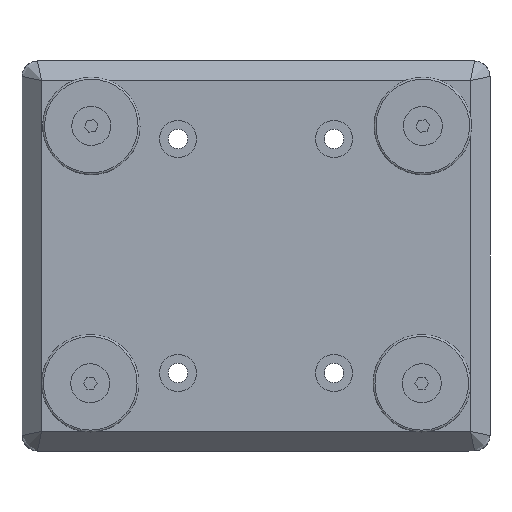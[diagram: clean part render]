
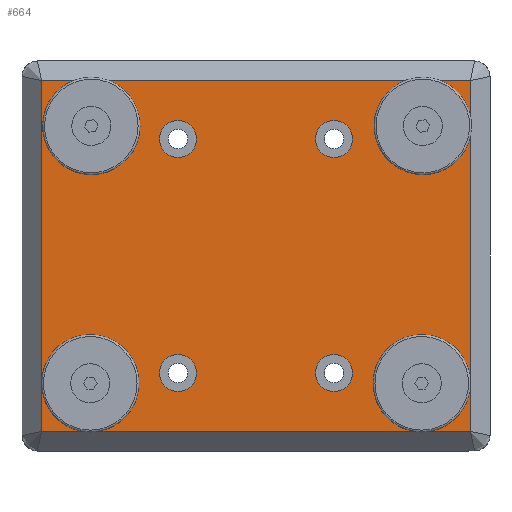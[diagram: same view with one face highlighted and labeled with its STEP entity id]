
A CAD part, front view. The second image highlights one B-rep face of the part: STEP entity #664.
In plain terms, the highlighted planar face has unit normal (0, -1, 0).
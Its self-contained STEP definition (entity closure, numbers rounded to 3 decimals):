
#664=ADVANCED_FACE('',(#964,#965,#966,#967,#968,#969,#970,#971,#972),#973,.T.);
#964=FACE_BOUND('',#1642,.T.);
#965=FACE_BOUND('',#1643,.T.);
#966=FACE_BOUND('',#1644,.T.);
#967=FACE_BOUND('',#1645,.T.);
#968=FACE_BOUND('',#1646,.T.);
#969=FACE_BOUND('',#1647,.T.);
#970=FACE_OUTER_BOUND('',#1648,.T.);
#971=FACE_BOUND('',#1649,.T.);
#972=FACE_BOUND('',#1650,.T.);
#973=PLANE('',#1651);
#1642=EDGE_LOOP('',(#2505));
#1643=EDGE_LOOP('',(#2506));
#1644=EDGE_LOOP('',(#2507));
#1645=EDGE_LOOP('',(#2508));
#1646=EDGE_LOOP('',(#2509));
#1647=EDGE_LOOP('',(#2510));
#1648=EDGE_LOOP('',(#2511,#2512,#2513,#2514));
#1649=EDGE_LOOP('',(#2515));
#1650=EDGE_LOOP('',(#2516));
#1651=AXIS2_PLACEMENT_3D('',#2517,#2518,#2519);
#2505=ORIENTED_EDGE('',*,*,#4325,.F.);
#2506=ORIENTED_EDGE('',*,*,#4326,.F.);
#2507=ORIENTED_EDGE('',*,*,#4327,.F.);
#2508=ORIENTED_EDGE('',*,*,#4328,.F.);
#2509=ORIENTED_EDGE('',*,*,#4329,.T.);
#2510=ORIENTED_EDGE('',*,*,#4330,.T.);
#2511=ORIENTED_EDGE('',*,*,#4284,.F.);
#2512=ORIENTED_EDGE('',*,*,#4331,.F.);
#2513=ORIENTED_EDGE('',*,*,#4332,.T.);
#2514=ORIENTED_EDGE('',*,*,#4322,.T.);
#2515=ORIENTED_EDGE('',*,*,#4333,.T.);
#2516=ORIENTED_EDGE('',*,*,#4334,.T.);
#2517=CARTESIAN_POINT('',(130.429,-12.,-45.0));
#2518=DIRECTION('',(0.,-1.0,0.));
#2519=DIRECTION('',(0.,0.,-1.0));
#4284=EDGE_CURVE('',#4825,#4826,#4827,.T.);
#4322=EDGE_CURVE('',#4888,#4826,#4889,.T.);
#4325=EDGE_CURVE('',#4893,#4893,#4894,.T.);
#4326=EDGE_CURVE('',#4895,#4895,#4896,.T.);
#4327=EDGE_CURVE('',#4897,#4897,#4898,.T.);
#4328=EDGE_CURVE('',#4899,#4899,#4900,.T.);
#4329=EDGE_CURVE('',#4901,#4901,#4902,.T.);
#4330=EDGE_CURVE('',#4903,#4903,#4904,.T.);
#4331=EDGE_CURVE('',#4905,#4825,#4906,.T.);
#4332=EDGE_CURVE('',#4905,#4888,#4907,.T.);
#4333=EDGE_CURVE('',#4908,#4908,#4909,.T.);
#4334=EDGE_CURVE('',#4910,#4910,#4911,.T.);
#4825=VERTEX_POINT('',#5757);
#4826=VERTEX_POINT('',#5758);
#4827=LINE('',#5759,#5760);
#4888=VERTEX_POINT('',#5852);
#4889=LINE('',#5853,#5854);
#4893=VERTEX_POINT('',#5861);
#4894=CIRCLE('',#5862,4.0);
#4895=VERTEX_POINT('',#5863);
#4896=CIRCLE('',#5864,4.0);
#4897=VERTEX_POINT('',#5865);
#4898=CIRCLE('',#5866,4.0);
#4899=VERTEX_POINT('',#5867);
#4900=CIRCLE('',#5868,4.0);
#4901=VERTEX_POINT('',#5869);
#4902=CIRCLE('',#5870,4.75);
#4903=VERTEX_POINT('',#5871);
#4904=CIRCLE('',#5872,4.75);
#4905=VERTEX_POINT('',#5873);
#4906=LINE('',#5874,#5875);
#4907=LINE('',#5876,#5877);
#4908=VERTEX_POINT('',#5878);
#4909=CIRCLE('',#5879,4.75);
#4910=VERTEX_POINT('',#5880);
#4911=CIRCLE('',#5881,4.75);
#5757=CARTESIAN_POINT('',(-55.0,-12.0,-45.0));
#5758=CARTESIAN_POINT('',(-55.0,-12.0,45.));
#5759=CARTESIAN_POINT('',(-55.0,-12.0,-77.144));
#5760=VECTOR('',#7474,1.0);
#5852=CARTESIAN_POINT('',(55.0,-12.,45.0));
#5853=CARTESIAN_POINT('',(130.429,-12.,45.0));
#5854=VECTOR('',#7533,1.0);
#5861=CARTESIAN_POINT('',(-42.5,-12.,-36.64));
#5862=AXIS2_PLACEMENT_3D('',#7537,#7538,#7539);
#5863=CARTESIAN_POINT('',(-42.5,-12.,28.64));
#5864=AXIS2_PLACEMENT_3D('',#7540,#7541,#7542);
#5865=CARTESIAN_POINT('',(42.5,-12.,28.64));
#5866=AXIS2_PLACEMENT_3D('',#7543,#7544,#7545);
#5867=CARTESIAN_POINT('',(42.5,-12.,-36.64));
#5868=AXIS2_PLACEMENT_3D('',#7546,#7547,#7548);
#5869=CARTESIAN_POINT('',(-20.0,-12.,-25.25));
#5870=AXIS2_PLACEMENT_3D('',#7549,#7550,#7551);
#5871=CARTESIAN_POINT('',(20.0,-12.,34.75));
#5872=AXIS2_PLACEMENT_3D('',#7552,#7553,#7554);
#5873=CARTESIAN_POINT('',(55.0,-12.,-45.0));
#5874=CARTESIAN_POINT('',(130.429,-12.,-45.0));
#5875=VECTOR('',#7555,1.0);
#5876=CARTESIAN_POINT('',(55.0,-12.0,-77.144));
#5877=VECTOR('',#7556,1.0);
#5878=CARTESIAN_POINT('',(-20.0,-12.,34.75));
#5879=AXIS2_PLACEMENT_3D('',#7557,#7558,#7559);
#5880=CARTESIAN_POINT('',(20.0,-12.,-25.25));
#5881=AXIS2_PLACEMENT_3D('',#7560,#7561,#7562);
#7474=DIRECTION('',(0.,0.0,1.0));
#7533=DIRECTION('',(-1.0,0.,0.));
#7537=CARTESIAN_POINT('',(-42.5,-12.,-32.64));
#7538=DIRECTION('',(0.,-1.0,0.));
#7539=DIRECTION('',(0.,0.,-1.0));
#7540=CARTESIAN_POINT('',(-42.5,-12.,32.64));
#7541=DIRECTION('',(0.,-1.0,0.));
#7542=DIRECTION('',(0.,0.,-1.0));
#7543=CARTESIAN_POINT('',(42.5,-12.,32.64));
#7544=DIRECTION('',(0.,-1.0,0.));
#7545=DIRECTION('',(0.,0.,-1.0));
#7546=CARTESIAN_POINT('',(42.5,-12.,-32.64));
#7547=DIRECTION('',(0.,-1.0,0.));
#7548=DIRECTION('',(0.,0.,-1.0));
#7549=CARTESIAN_POINT('',(-20.0,-12.,-30.0));
#7550=DIRECTION('',(0.,1.0,0.));
#7551=DIRECTION('',(0.,0.,1.0));
#7552=CARTESIAN_POINT('',(20.0,-12.,30.0));
#7553=DIRECTION('',(0.,1.0,0.));
#7554=DIRECTION('',(0.,0.,1.0));
#7555=DIRECTION('',(-1.0,0.,0.));
#7556=DIRECTION('',(0.,0.0,1.0));
#7557=CARTESIAN_POINT('',(-20.0,-12.,30.0));
#7558=DIRECTION('',(0.,1.0,0.));
#7559=DIRECTION('',(0.,0.,1.0));
#7560=CARTESIAN_POINT('',(20.0,-12.,-30.0));
#7561=DIRECTION('',(0.,1.0,0.));
#7562=DIRECTION('',(0.,0.,1.0));
